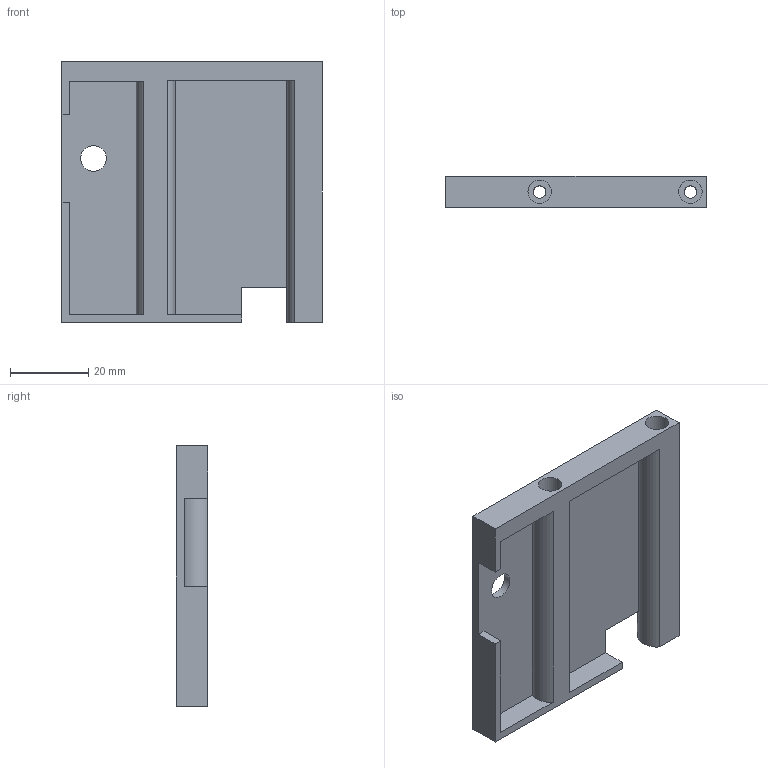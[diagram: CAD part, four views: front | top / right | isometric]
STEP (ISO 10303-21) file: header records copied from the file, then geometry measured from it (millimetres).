
FILE_DESCRIPTION(/* description */ (''),/* implementation_level */ '2;1');
FILE_NAME(/* name */ '1-05-1 Bottom-separator.step',/* time_stamp */ '2025-05-10T21:33:34+02:00',/* author */ (''),/* organization */ (''),/* preprocessor_version */ 'ST-DEVELOPER v20.1',/* originating_system */ 'Autodesk Translation Framework v14.4.0.0',/* authorisation */ '');
FILE_SCHEMA (('AUTOMOTIVE_DESIGN { 1 0 10303 214 3 1 1 }'));
Length unit declared in the file: millimetre
Products named in the file (1): 1-05-1 Bottom-separator
Bounding box: 66.6 x 8 x 66.8 mm (x, y, z)
Volume: 15965.2 mm3; surface area: 14018.8 mm2
Topology: 1 solids, 1 shells, 29 faces, 75 edges, 50 vertices
Faces by surface type: plane 21, cylinder 8
Full cylindrical faces by diameter (mm): 3.2 x2, 6 x2, 6.6 x1
Entity records: 938 total; most frequent: CARTESIAN_POINT 155, DIRECTION 152, ORIENTED_EDGE 150, EDGE_CURVE 75, LINE 58, VECTOR 58, VERTEX_POINT 50, AXIS2_PLACEMENT_3D 47
